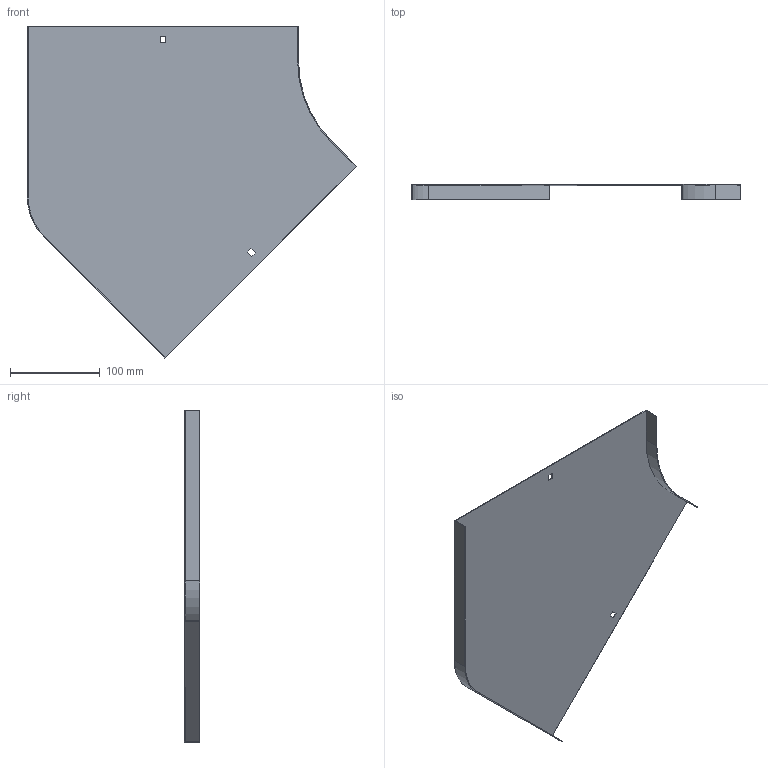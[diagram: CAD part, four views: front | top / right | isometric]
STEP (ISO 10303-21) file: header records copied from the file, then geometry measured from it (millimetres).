
FILE_DESCRIPTION (( 'STEP AP214' ), '1' );
FILE_NAME ('OP4_300.step', '2025-07-16T09:14:23', ( '' ), ( '' ), 'SwSTEP 2.0', 'SolidWorks 2023', '' );
FILE_SCHEMA (( 'AUTOMOTIVE_DESIGN' ));
Length unit declared in the file: millimetre
Products named in the file (1): OP4_300
Bounding box: 366.6 x 17 x 369.51 mm (x, y, z)
Volume: 102842 mm3; surface area: 207011.6 mm2
Topology: 1 solids, 1 shells, 26 faces, 72 edges, 48 vertices
Faces by surface type: plane 22, cylinder 4
Entity records: 855 total; most frequent: CARTESIAN_POINT 147, ORIENTED_EDGE 144, DIRECTION 134, EDGE_CURVE 72, VECTOR 64, LINE 64, VERTEX_POINT 48, AXIS2_PLACEMENT_3D 35
